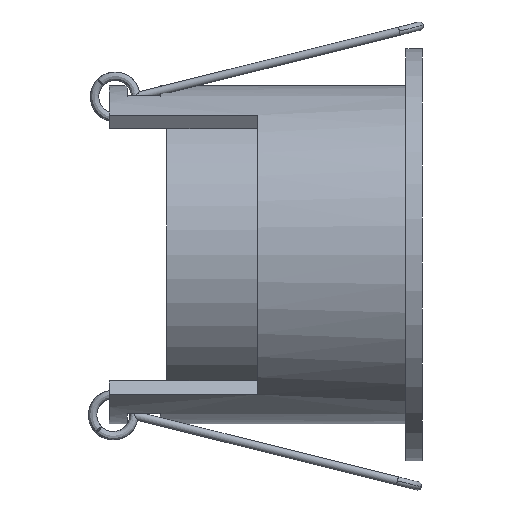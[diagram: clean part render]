
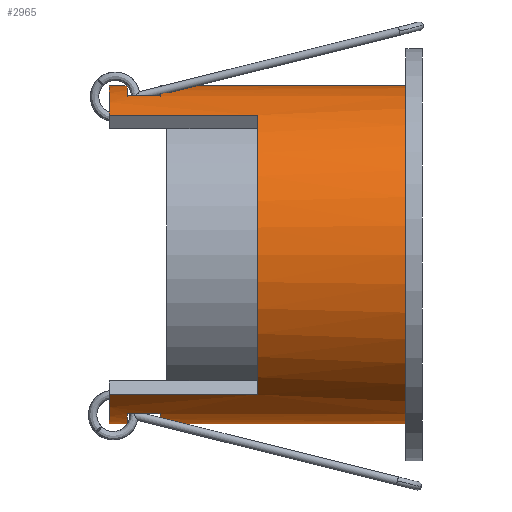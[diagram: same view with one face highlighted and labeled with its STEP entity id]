
A CAD part, left-side view. The second image highlights one B-rep face of the part: STEP entity #2965.
In plain terms, the highlighted cylindrical face has radius 20.5 mm (diameter 41 mm), a partial arc.
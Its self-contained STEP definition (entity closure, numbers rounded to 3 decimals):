
#5 = LINE ( 'NONE', #1254, #2644 ) ;
#51 = DIRECTION ( 'NONE',  ( 0., 0., 1. ) ) ;
#56 = CIRCLE ( 'NONE', #2850, 20.5 ) ;
#107 = DIRECTION ( 'NONE',  ( 0., -1., 0. ) ) ;
#111 = VERTEX_POINT ( 'NONE', #3472 ) ;
#114 = DIRECTION ( 'NONE',  ( 0., 0., 1. ) ) ;
#133 = CARTESIAN_POINT ( 'NONE',  ( 0., 31.822, 0. ) ) ;
#143 = EDGE_CURVE ( 'NONE', #2206, #1486, #3892, .T. ) ;
#190 = VERTEX_POINT ( 'NONE', #940 ) ;
#194 = AXIS2_PLACEMENT_3D ( 'NONE', #1957, #1299, #2592 ) ;
#309 = ORIENTED_EDGE ( 'NONE', *, *, #3143, .F. ) ;
#324 = VECTOR ( 'NONE', #571, 1000. ) ;
#339 = EDGE_LOOP ( 'NONE', ( #1012, #2025, #2157, #3791, #2355, #309, #559, #3728, #1631, #530, #2417, #1958, #1559, #651, #3977, #2549 ) ) ;
#354 = CARTESIAN_POINT ( 'NONE',  ( 0., 20., 0. ) ) ;
#369 = DIRECTION ( 'NONE',  ( 0., 1., 0. ) ) ;
#409 = VERTEX_POINT ( 'NONE', #2051 ) ;
#451 = VECTOR ( 'NONE', #3631, 1000. ) ;
#465 = CARTESIAN_POINT ( 'NONE',  ( -7., 20., 19.268 ) ) ;
#484 = EDGE_CURVE ( 'NONE', #569, #2206, #1600, .T. ) ;
#508 = CIRCLE ( 'NONE', #2127, 20.5 ) ;
#530 = ORIENTED_EDGE ( 'NONE', *, *, #1288, .F. ) ;
#535 = EDGE_CURVE ( 'NONE', #2285, #1486, #1962, .T. ) ;
#549 = CARTESIAN_POINT ( 'NONE',  ( 0., 20., -20.5 ) ) ;
#559 = ORIENTED_EDGE ( 'NONE', *, *, #1701, .T. ) ;
#564 = FACE_OUTER_BOUND ( 'NONE', #339, .T. ) ;
#569 = VERTEX_POINT ( 'NONE', #3233 ) ;
#571 = DIRECTION ( 'NONE',  ( 0., -1., 0. ) ) ;
#584 = DIRECTION ( 'NONE',  ( 0., 0., 1. ) ) ;
#642 = CARTESIAN_POINT ( 'NONE',  ( -11.54, 20., -16.943 ) ) ;
#651 = ORIENTED_EDGE ( 'NONE', *, *, #3635, .F. ) ;
#722 = DIRECTION ( 'NONE',  ( 0., -1., 0. ) ) ;
#725 = CARTESIAN_POINT ( 'NONE',  ( 0., 35.822, 0. ) ) ;
#775 = CARTESIAN_POINT ( 'NONE',  ( 0., 20., -20.5 ) ) ;
#776 = CIRCLE ( 'NONE', #832, 20.5 ) ;
#784 = CIRCLE ( 'NONE', #194, 20.5 ) ;
#794 = DIRECTION ( 'NONE',  ( 0., -1., 0. ) ) ;
#810 = CARTESIAN_POINT ( 'NONE',  ( -7., 20., -19.268 ) ) ;
#832 = AXIS2_PLACEMENT_3D ( 'NONE', #3465, #2207, #584 ) ;
#847 = DIRECTION ( 'NONE',  ( 0., -1., 0. ) ) ;
#865 = EDGE_CURVE ( 'NONE', #1498, #3451, #2361, .T. ) ;
#940 = CARTESIAN_POINT ( 'NONE',  ( 0., 2., 20.5 ) ) ;
#967 = VECTOR ( 'NONE', #2599, 1000. ) ;
#1012 = ORIENTED_EDGE ( 'NONE', *, *, #2020, .F. ) ;
#1043 = AXIS2_PLACEMENT_3D ( 'NONE', #3851, #1972, #51 ) ;
#1067 = DIRECTION ( 'NONE',  ( 0., 0., -1. ) ) ;
#1079 = CARTESIAN_POINT ( 'NONE',  ( 0., 35.822, -20.5 ) ) ;
#1150 = EDGE_CURVE ( 'NONE', #2248, #190, #5, .T. ) ;
#1157 = EDGE_CURVE ( 'NONE', #3425, #190, #776, .T. ) ;
#1179 = CARTESIAN_POINT ( 'NONE',  ( -11.54, 38., 16.943 ) ) ;
#1192 = CARTESIAN_POINT ( 'NONE',  ( 0., 20., 0. ) ) ;
#1210 = VERTEX_POINT ( 'NONE', #3160 ) ;
#1240 = CARTESIAN_POINT ( 'NONE',  ( -7., 31.822, -19.268 ) ) ;
#1254 = CARTESIAN_POINT ( 'NONE',  ( 0., 20., 20.5 ) ) ;
#1266 = EDGE_CURVE ( 'NONE', #3451, #2504, #2453, .T. ) ;
#1279 = DIRECTION ( 'NONE',  ( 0., -1., 0. ) ) ;
#1288 = EDGE_CURVE ( 'NONE', #1210, #1498, #56, .T. ) ;
#1299 = DIRECTION ( 'NONE',  ( 0., 1., 0. ) ) ;
#1373 = DIRECTION ( 'NONE',  ( 0., 0., 1. ) ) ;
#1412 = DIRECTION ( 'NONE',  ( 0., 1., 0. ) ) ;
#1486 = VERTEX_POINT ( 'NONE', #4038 ) ;
#1498 = VERTEX_POINT ( 'NONE', #1240 ) ;
#1554 = VECTOR ( 'NONE', #722, 1000. ) ;
#1559 = ORIENTED_EDGE ( 'NONE', *, *, #1150, .F. ) ;
#1568 = EDGE_CURVE ( 'NONE', #2445, #111, #508, .T. ) ;
#1600 = LINE ( 'NONE', #1653, #1554 ) ;
#1631 = ORIENTED_EDGE ( 'NONE', *, *, #865, .F. ) ;
#1653 = CARTESIAN_POINT ( 'NONE',  ( -11.54, 38., -16.943 ) ) ;
#1701 = EDGE_CURVE ( 'NONE', #3084, #2504, #3858, .T. ) ;
#1795 = DIRECTION ( 'NONE',  ( 0., 1., 0. ) ) ;
#1798 = DIRECTION ( 'NONE',  ( 0., 0., -1. ) ) ;
#1799 = AXIS2_PLACEMENT_3D ( 'NONE', #3948, #847, #1067 ) ;
#1839 = CARTESIAN_POINT ( 'NONE',  ( 0., 38., -20.5 ) ) ;
#1927 = EDGE_CURVE ( 'NONE', #111, #3666, #3931, .T. ) ;
#1942 = VECTOR ( 'NONE', #794, 1000. ) ;
#1957 = CARTESIAN_POINT ( 'NONE',  ( 0., 38., 0. ) ) ;
#1958 = ORIENTED_EDGE ( 'NONE', *, *, #1157, .T. ) ;
#1962 = LINE ( 'NONE', #3218, #967 ) ;
#1972 = DIRECTION ( 'NONE',  ( 0., 1., 0. ) ) ;
#2020 = EDGE_CURVE ( 'NONE', #409, #2445, #3972, .T. ) ;
#2025 = ORIENTED_EDGE ( 'NONE', *, *, #3769, .F. ) ;
#2051 = CARTESIAN_POINT ( 'NONE',  ( 0., 38., 20.5 ) ) ;
#2127 = AXIS2_PLACEMENT_3D ( 'NONE', #725, #2889, #2542 ) ;
#2143 = DIRECTION ( 'NONE',  ( 0., -1., 0. ) ) ;
#2149 = DIRECTION ( 'NONE',  ( 0., 1., 0. ) ) ;
#2157 = ORIENTED_EDGE ( 'NONE', *, *, #535, .T. ) ;
#2180 = CARTESIAN_POINT ( 'NONE',  ( 0., 2., -20.5 ) ) ;
#2206 = VERTEX_POINT ( 'NONE', #642 ) ;
#2207 = DIRECTION ( 'NONE',  ( 0., 1., 0. ) ) ;
#2248 = VERTEX_POINT ( 'NONE', #3344 ) ;
#2280 = EDGE_CURVE ( 'NONE', #1210, #3425, #3408, .T. ) ;
#2285 = VERTEX_POINT ( 'NONE', #1179 ) ;
#2318 = VECTOR ( 'NONE', #1795, 1000. ) ;
#2355 = ORIENTED_EDGE ( 'NONE', *, *, #484, .F. ) ;
#2361 = LINE ( 'NONE', #810, #2318 ) ;
#2386 = AXIS2_PLACEMENT_3D ( 'NONE', #1192, #1279, #1798 ) ;
#2417 = ORIENTED_EDGE ( 'NONE', *, *, #2280, .T. ) ;
#2445 = VERTEX_POINT ( 'NONE', #3524 ) ;
#2453 = CIRCLE ( 'NONE', #1799, 20.5 ) ;
#2504 = VERTEX_POINT ( 'NONE', #1079 ) ;
#2542 = DIRECTION ( 'NONE',  ( 0., 0., -1. ) ) ;
#2549 = ORIENTED_EDGE ( 'NONE', *, *, #1568, .F. ) ;
#2592 = DIRECTION ( 'NONE',  ( 0., 0., -1. ) ) ;
#2599 = DIRECTION ( 'NONE',  ( 0., -1., 0. ) ) ;
#2644 = VECTOR ( 'NONE', #2143, 1000. ) ;
#2703 = AXIS2_PLACEMENT_3D ( 'NONE', #354, #2149, #4040 ) ;
#2754 = CYLINDRICAL_SURFACE ( 'NONE', #2386, 20.5 ) ;
#2850 = AXIS2_PLACEMENT_3D ( 'NONE', #133, #1412, #1373 ) ;
#2889 = DIRECTION ( 'NONE',  ( 0., -1., 0. ) ) ;
#2913 = VECTOR ( 'NONE', #107, 1000. ) ;
#2965 = ADVANCED_FACE ( 'NONE', ( #564 ), #2754, .T. ) ;
#3084 = VERTEX_POINT ( 'NONE', #1839 ) ;
#3143 = EDGE_CURVE ( 'NONE', #3084, #569, #3454, .T. ) ;
#3160 = CARTESIAN_POINT ( 'NONE',  ( 0., 31.822, -20.5 ) ) ;
#3218 = CARTESIAN_POINT ( 'NONE',  ( -11.54, 38., 16.943 ) ) ;
#3233 = CARTESIAN_POINT ( 'NONE',  ( -11.54, 38., -16.943 ) ) ;
#3248 = AXIS2_PLACEMENT_3D ( 'NONE', #3421, #369, #114 ) ;
#3344 = CARTESIAN_POINT ( 'NONE',  ( 0., 31.822, 20.5 ) ) ;
#3408 = LINE ( 'NONE', #549, #324 ) ;
#3416 = CARTESIAN_POINT ( 'NONE',  ( -7., 35.822, -19.268 ) ) ;
#3421 = CARTESIAN_POINT ( 'NONE',  ( 0., 38., 0. ) ) ;
#3425 = VERTEX_POINT ( 'NONE', #2180 ) ;
#3451 = VERTEX_POINT ( 'NONE', #3416 ) ;
#3454 = CIRCLE ( 'NONE', #3248, 20.5 ) ;
#3465 = CARTESIAN_POINT ( 'NONE',  ( 0., 2., 0. ) ) ;
#3472 = CARTESIAN_POINT ( 'NONE',  ( -7., 35.822, 19.268 ) ) ;
#3479 = CARTESIAN_POINT ( 'NONE',  ( 0., 20., 20.5 ) ) ;
#3524 = CARTESIAN_POINT ( 'NONE',  ( 0., 35.822, 20.5 ) ) ;
#3631 = DIRECTION ( 'NONE',  ( 0., -1., 0. ) ) ;
#3635 = EDGE_CURVE ( 'NONE', #3666, #2248, #4042, .T. ) ;
#3666 = VERTEX_POINT ( 'NONE', #3833 ) ;
#3728 = ORIENTED_EDGE ( 'NONE', *, *, #1266, .F. ) ;
#3769 = EDGE_CURVE ( 'NONE', #2285, #409, #784, .T. ) ;
#3791 = ORIENTED_EDGE ( 'NONE', *, *, #143, .F. ) ;
#3833 = CARTESIAN_POINT ( 'NONE',  ( -7., 31.822, 19.268 ) ) ;
#3851 = CARTESIAN_POINT ( 'NONE',  ( 0., 31.822, 0. ) ) ;
#3858 = LINE ( 'NONE', #775, #1942 ) ;
#3892 = CIRCLE ( 'NONE', #2703, 20.5 ) ;
#3931 = LINE ( 'NONE', #465, #451 ) ;
#3948 = CARTESIAN_POINT ( 'NONE',  ( 0., 35.822, 0. ) ) ;
#3972 = LINE ( 'NONE', #3479, #2913 ) ;
#3977 = ORIENTED_EDGE ( 'NONE', *, *, #1927, .F. ) ;
#4038 = CARTESIAN_POINT ( 'NONE',  ( -11.54, 20., 16.943 ) ) ;
#4040 = DIRECTION ( 'NONE',  ( 0., 0., 1. ) ) ;
#4042 = CIRCLE ( 'NONE', #1043, 20.5 ) ;
